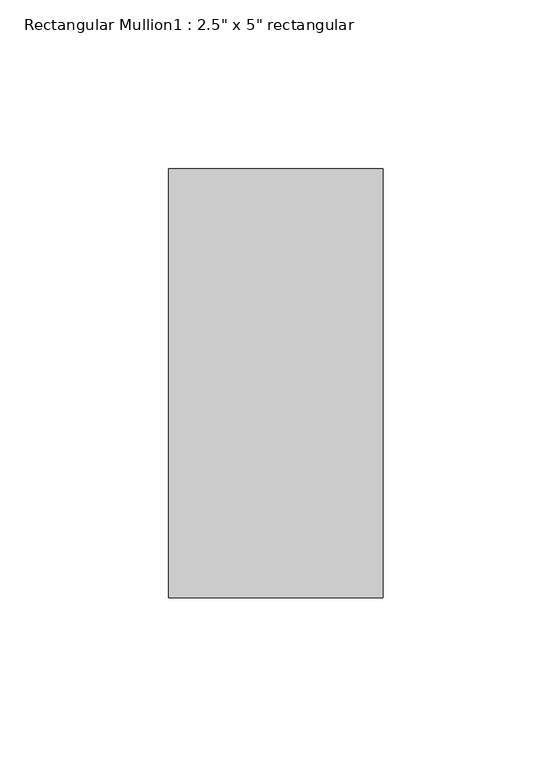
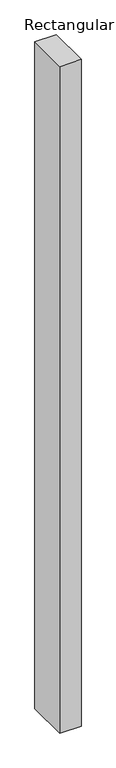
"""IFC4 building model written with IfcOpenShell, lengths in millimetres: member geometry."""

from ifc_helpers import new_model, si_unit, frame, origin, place, context, project, spatial, polyline, outline, extrude, source, transform, mapped, element, save


def member_a397286f(model_context):
    return source(origin(), model_context, "Body", "SweptSolid", [
        extrude(outline(polyline([(0.0, 63.5), (0.0, -63.5), (-63.5, -63.5), (-63.5, 63.5), (0.0, 63.5)])), frame((0.0, 0.0, -2091.69), z_axis=(0.0, 0.0, 1.0), x_axis=(1.0, 0.0, 0.0)), (0.0, 0.0, 1.0), 2091.69),
    ])


if __name__ == "__main__":
    model = new_model("IFC4")
    model_context = context("Model", 3, world=origin())
    ifc_project = project(units=[si_unit("LENGTHUNIT", "METRE", prefix="MILLI")], contexts=[model_context])
    site = spatial("IfcSite", under=ifc_project)
    building = spatial("IfcBuilding", under=site)
    placement = place(None, origin())
    member_shape = member_a397286f(model_context)
    element("IfcMember", 1, ObjectType="Rectangular Mullion1 : 2.5\" x 5\" rectangular", at=placement, inside=building, context=model_context, shape_type="MappedRepresentation", body=[
        mapped(member_shape, transform((0.0, 0.0, 0.0), x_axis=(1.0, 0.0, 0.0), y_axis=(0.0, 1.0, 0.0), z_axis=(0.0, 0.0, 1.0))),
    ])
    save(model, "model.ifc")
